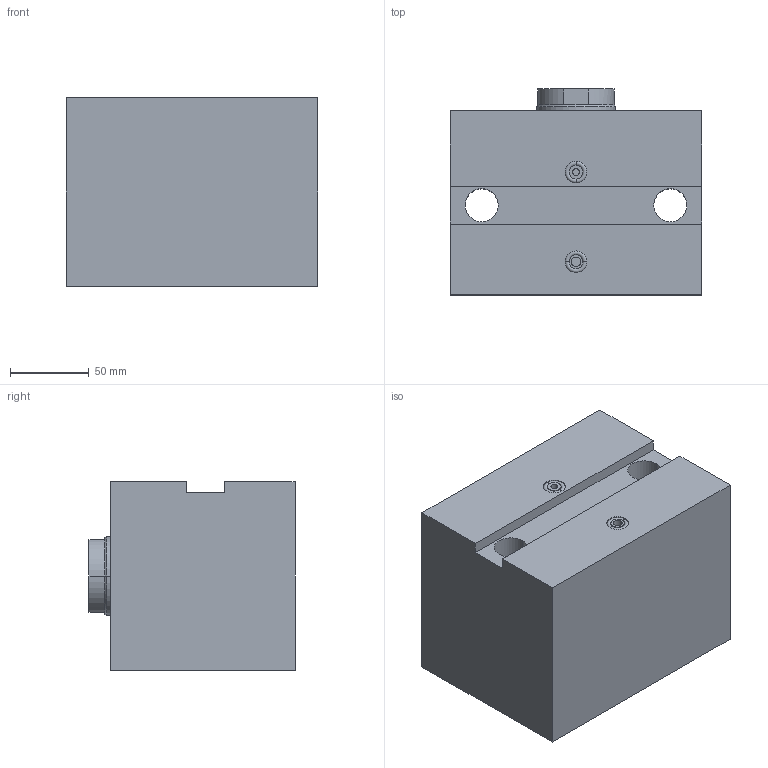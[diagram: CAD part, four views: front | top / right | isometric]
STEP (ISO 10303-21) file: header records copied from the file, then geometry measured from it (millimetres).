
FILE_DESCRIPTION (( 'STEP AP203' ), '1' );
FILE_NAME ('GERMA_Blockzylinder_604-080-032.STEP', '2016-01-25T09:44:44', ( '' ), ( '' ), 'SwSTEP 2.0', 'SolidWorks 2015', '' );
FILE_SCHEMA (( 'CONFIG_CONTROL_DESIGN' ));
Length unit declared in the file: millimetre
Products named in the file (3): GH-600-080_GH-604-080-032; Kolben 60x-080_Kolben DU.80-Hub32-IG; GERMA_Blockzylinder_604-080-032
Assembly tree (2 placements, depth 2):
  GERMA_Blockzylinder_604-080-032
    GH-600-080_GH-604-080-032
    Kolben 60x-080_Kolben DU.80-Hub32-IG
Bounding box: 160 x 131 x 120 mm (x, y, z)
Volume: 2038420.2 mm3; surface area: 183208.3 mm2
Topology: 2 solids, 2 shells, 81 faces, 176 edges, 106 vertices
Faces by surface type: cylinder 37, plane 26, cone 14, torus 4
Entity records: 2490 total; most frequent: DIRECTION 431, CARTESIAN_POINT 362, ORIENTED_EDGE 340, AXIS2_PLACEMENT_3D 175, EDGE_CURVE 170, VERTEX_POINT 106, EDGE_LOOP 98, CIRCLE 89
